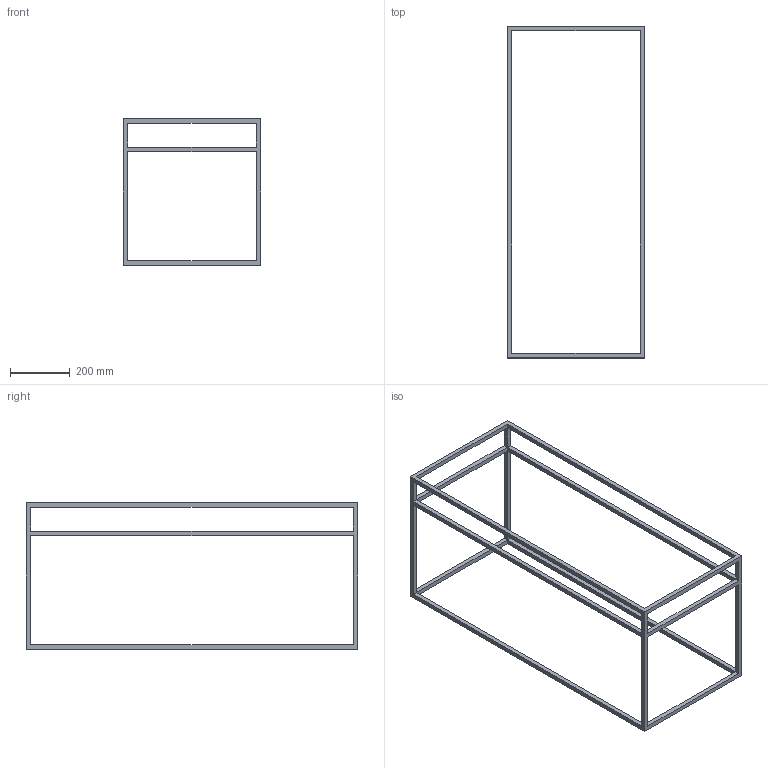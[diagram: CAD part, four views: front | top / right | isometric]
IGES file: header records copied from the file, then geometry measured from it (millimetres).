
Start section: START RECORD GO HERE.
Global section: file name: 2075.igs; native system: DASSAULT SYSTEMES CATIA V5 R19 - www.3ds.com; preprocessor: CATIA Version 5 Release 19 SP 5 ; author: gioge; organization: LAPTOP-G94B6G74; date: 20201003.152905; units: millimetre
Bounding box: 460 x 1110 x 490 mm (x, y, z)
Surface area: 657600 mm2 (no closed solid volume)
Topology: 0 solids, 0 shells, 50 faces, 240 edges, 240 vertices
Faces by surface type: plane 50
